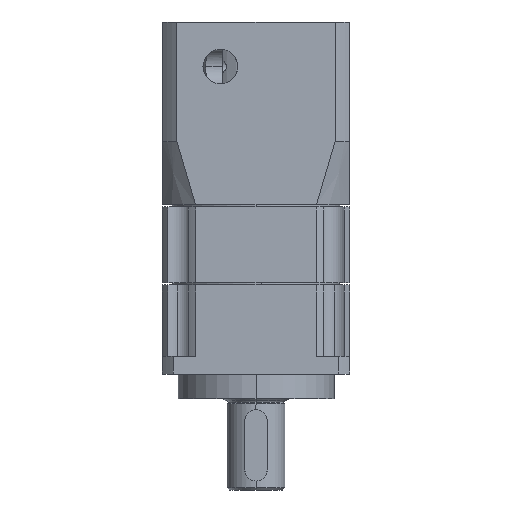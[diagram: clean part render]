
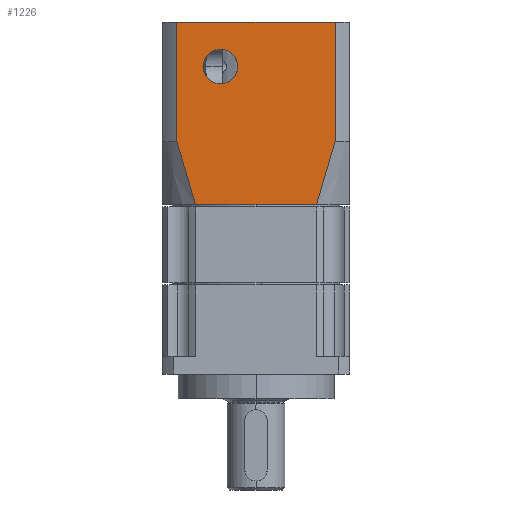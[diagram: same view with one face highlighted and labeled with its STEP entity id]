
A CAD part, left-side view. The second image highlights one B-rep face of the part: STEP entity #1226.
In plain terms, the highlighted planar face has unit normal (-1, 0, 0).
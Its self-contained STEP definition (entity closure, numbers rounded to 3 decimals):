
#214 = ORIENTED_EDGE ( 'NONE', *, *, #1313, .F. ) ;
#680 = EDGE_LOOP ( 'NONE', ( #1461, #1295, #1264, #1267, #1429, #1287 ) ) ;
#1029 = VERTEX_POINT ( 'NONE', #11736 ) ;
#1226 = ADVANCED_FACE ( 'NONE', ( #12105, #12104 ), #12111, .F. ) ;
#1227 = EDGE_LOOP ( 'NONE', ( #1421, #214 ) ) ;
#1264 = ORIENTED_EDGE ( 'NONE', *, *, #1265, .F. ) ;
#1265 = EDGE_CURVE ( 'NONE', #1266, #1308, #12469, .T. ) ;
#1266 = VERTEX_POINT ( 'NONE', #12465 ) ;
#1267 = ORIENTED_EDGE ( 'NONE', *, *, #1427, .F. ) ;
#1285 = EDGE_CURVE ( 'NONE', #1286, #1428, #12520, .T. ) ;
#1286 = VERTEX_POINT ( 'NONE', #12519 ) ;
#1287 = ORIENTED_EDGE ( 'NONE', *, *, #1288, .T. ) ;
#1288 = EDGE_CURVE ( 'NONE', #1286, #1499, #12512, .T. ) ;
#1295 = ORIENTED_EDGE ( 'NONE', *, *, #1296, .F. ) ;
#1296 = EDGE_CURVE ( 'NONE', #1308, #1304, #12610, .T. ) ;
#1304 = VERTEX_POINT ( 'NONE', #12582 ) ;
#1308 = VERTEX_POINT ( 'NONE', #12576 ) ;
#1312 = VERTEX_POINT ( 'NONE', #12570 ) ;
#1313 = EDGE_CURVE ( 'NONE', #1029, #1312, #12568, .T. ) ;
#1421 = ORIENTED_EDGE ( 'NONE', *, *, #1422, .F. ) ;
#1422 = EDGE_CURVE ( 'NONE', #1312, #1029, #12659, .T. ) ;
#1427 = EDGE_CURVE ( 'NONE', #1428, #1266, #12649, .T. ) ;
#1428 = VERTEX_POINT ( 'NONE', #12645 ) ;
#1429 = ORIENTED_EDGE ( 'NONE', *, *, #1285, .F. ) ;
#1461 = ORIENTED_EDGE ( 'NONE', *, *, #1498, .F. ) ;
#1498 = EDGE_CURVE ( 'NONE', #1304, #1499, #12895, .T. ) ;
#1499 = VERTEX_POINT ( 'NONE', #12894 ) ;
#11736 = CARTESIAN_POINT ( 'NONE',  ( -21., 11.9, 95. ) ) ;
#12099 = DIRECTION ( 'NONE',  ( 0., 0., 1. ) ) ;
#12100 = DIRECTION ( 'NONE',  ( 1., 0., 0. ) ) ;
#12101 = CARTESIAN_POINT ( 'NONE',  ( -21., 21., 105. ) ) ;
#12103 = AXIS2_PLACEMENT_3D ( 'NONE', #12101, #12100, #12099 ) ;
#12104 = FACE_OUTER_BOUND ( 'NONE', #680, .T. ) ;
#12105 = FACE_BOUND ( 'NONE', #1227, .T. ) ;
#12111 = PLANE ( 'NONE',  #12103 ) ;
#12465 = CARTESIAN_POINT ( 'NONE',  ( -21., 17.755, 105. ) ) ;
#12466 = DIRECTION ( 'NONE',  ( 0., -1., 0. ) ) ;
#12467 = VECTOR ( 'NONE', #12466, 1000. ) ;
#12468 = CARTESIAN_POINT ( 'NONE',  ( -21., 21., 105. ) ) ;
#12469 = LINE ( 'NONE', #12468, #12467 ) ;
#12509 = DIRECTION ( 'NONE',  ( 0., -1., 0. ) ) ;
#12510 = VECTOR ( 'NONE', #12509, 1000. ) ;
#12511 = CARTESIAN_POINT ( 'NONE',  ( -21., 21., 64. ) ) ;
#12512 = LINE ( 'NONE', #12511, #12510 ) ;
#12513 = CARTESIAN_POINT ( 'NONE',  ( -21., 17.755, 78.178 ) ) ;
#12514 = CARTESIAN_POINT ( 'NONE',  ( -21., 17.106, 75.801 ) ) ;
#12515 = CARTESIAN_POINT ( 'NONE',  ( -21., 16.438, 73.429 ) ) ;
#12516 = CARTESIAN_POINT ( 'NONE',  ( -21., 15.048, 68.701 ) ) ;
#12517 = CARTESIAN_POINT ( 'NONE',  ( -21., 14.327, 66.345 ) ) ;
#12518 = CARTESIAN_POINT ( 'NONE',  ( -21., 13.565, 64. ) ) ;
#12519 = CARTESIAN_POINT ( 'NONE',  ( -21., 13.565, 64. ) ) ;
#12520 = B_SPLINE_CURVE_WITH_KNOTS ( 'NONE', 3,
 ( #12518, #12517, #12516, #12515, #12514, #12513 ),
 .UNSPECIFIED., .F., .F.,
 ( 4, 2, 4 ),
 ( 0.13, 0.137, 0.144 ),
 .UNSPECIFIED. ) ;
#12564 = DIRECTION ( 'NONE',  ( 0., 0., 1. ) ) ;
#12565 = DIRECTION ( 'NONE',  ( -1., 0., 0. ) ) ;
#12566 = CARTESIAN_POINT ( 'NONE',  ( -21., 8., 95. ) ) ;
#12567 = AXIS2_PLACEMENT_3D ( 'NONE', #12566, #12565, #12564 ) ;
#12568 = CIRCLE ( 'NONE', #12567, 3.9 ) ;
#12570 = CARTESIAN_POINT ( 'NONE',  ( -21., 4.1, 95. ) ) ;
#12576 = CARTESIAN_POINT ( 'NONE',  ( -21., -17.755, 105. ) ) ;
#12582 = CARTESIAN_POINT ( 'NONE',  ( -21., -17.755, 78.178 ) ) ;
#12607 = DIRECTION ( 'NONE',  ( 0., 0., -1. ) ) ;
#12608 = VECTOR ( 'NONE', #12607, 1000. ) ;
#12609 = CARTESIAN_POINT ( 'NONE',  ( -21., -17.755, 105. ) ) ;
#12610 = LINE ( 'NONE', #12609, #12608 ) ;
#12645 = CARTESIAN_POINT ( 'NONE',  ( -21., 17.755, 78.178 ) ) ;
#12646 = DIRECTION ( 'NONE',  ( 0., 0., 1. ) ) ;
#12647 = VECTOR ( 'NONE', #12646, 1000. ) ;
#12648 = CARTESIAN_POINT ( 'NONE',  ( -21., 17.755, 105. ) ) ;
#12649 = LINE ( 'NONE', #12648, #12647 ) ;
#12655 = DIRECTION ( 'NONE',  ( 0., 0., 1. ) ) ;
#12656 = DIRECTION ( 'NONE',  ( -1., 0., 0. ) ) ;
#12657 = CARTESIAN_POINT ( 'NONE',  ( -21., 8., 95. ) ) ;
#12658 = AXIS2_PLACEMENT_3D ( 'NONE', #12657, #12656, #12655 ) ;
#12659 = CIRCLE ( 'NONE', #12658, 3.9 ) ;
#12887 = CARTESIAN_POINT ( 'NONE',  ( -21., -13.565, 64. ) ) ;
#12888 = CARTESIAN_POINT ( 'NONE',  ( -21., -14.325, 66.339 ) ) ;
#12889 = CARTESIAN_POINT ( 'NONE',  ( -21., -15.046, 68.694 ) ) ;
#12890 = CARTESIAN_POINT ( 'NONE',  ( -21., -16.436, 73.423 ) ) ;
#12891 = CARTESIAN_POINT ( 'NONE',  ( -21., -17.105, 75.799 ) ) ;
#12892 = CARTESIAN_POINT ( 'NONE',  ( -21., -17.755, 78.178 ) ) ;
#12894 = CARTESIAN_POINT ( 'NONE',  ( -21., -13.565, 64. ) ) ;
#12895 = B_SPLINE_CURVE_WITH_KNOTS ( 'NONE', 3,
 ( #12892, #12891, #12890, #12889, #12888, #12887 ),
 .UNSPECIFIED., .F., .F.,
 ( 4, 2, 4 ),
 ( 0.061, 0.068, 0.076 ),
 .UNSPECIFIED. ) ;
